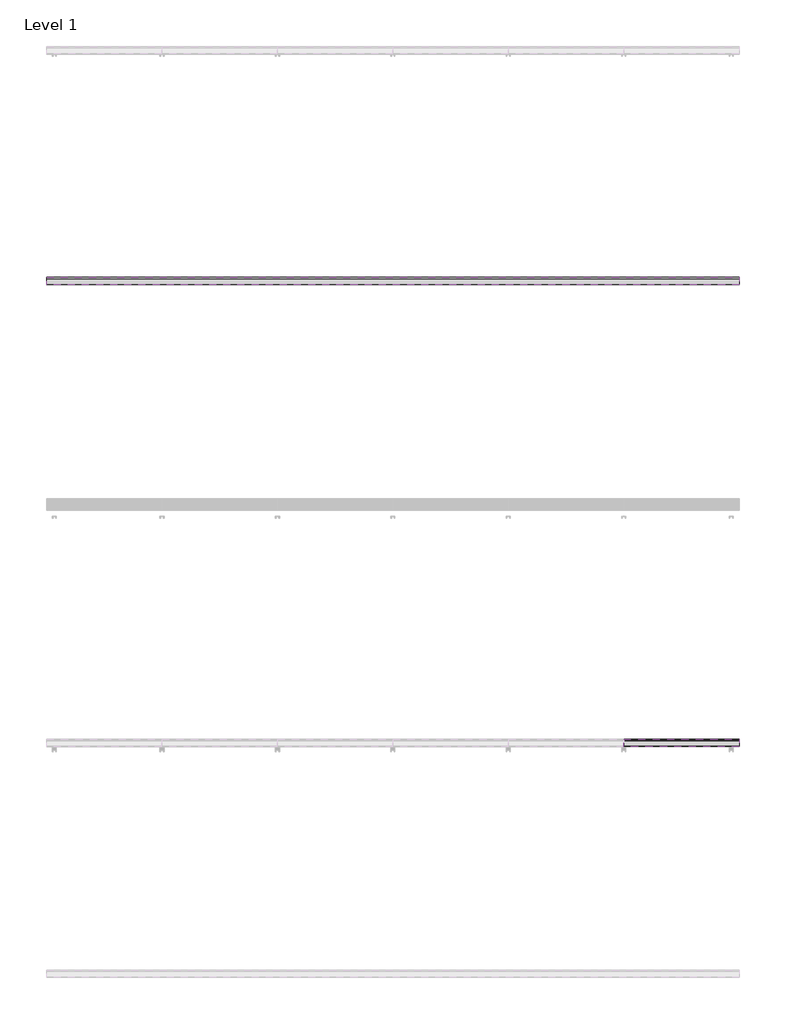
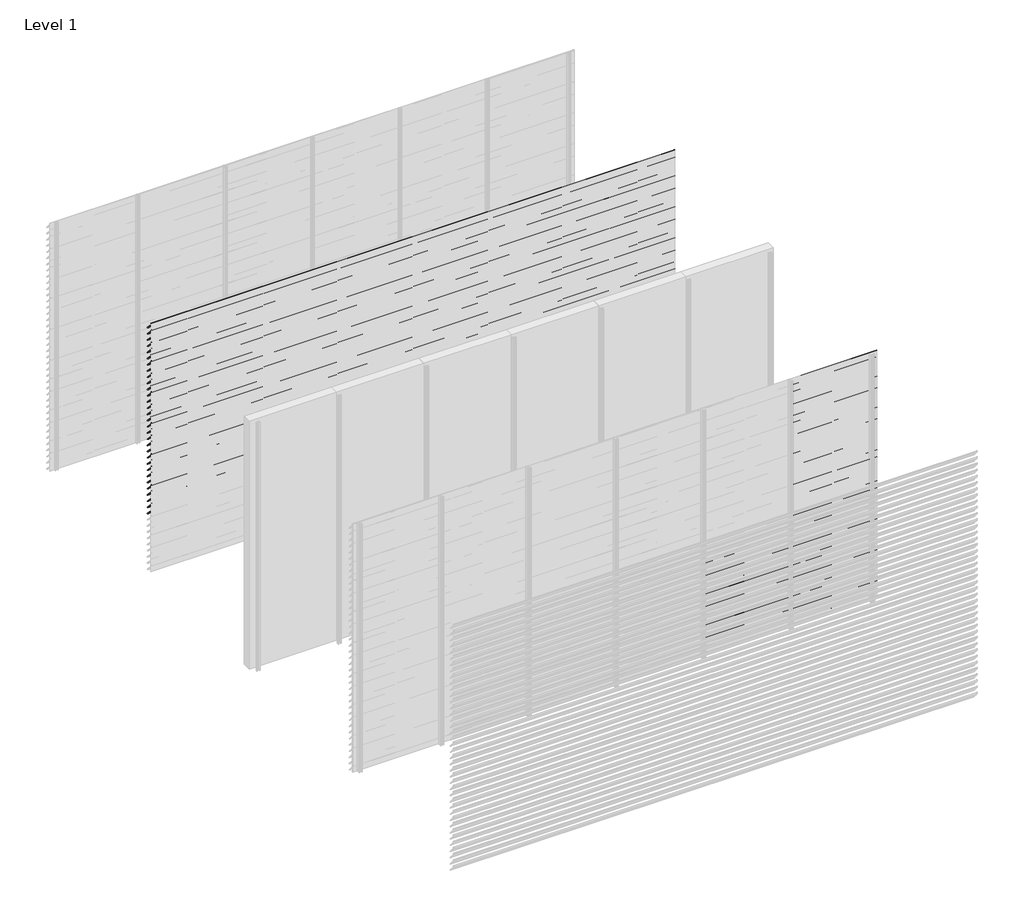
# One storey, part 29 of 35: 86 proxies.
"""IFC4 building model written with IfcOpenShell, lengths in millimetres."""

from ifc_helpers import new_model, si_unit, frame, origin, place, context, project, spatial, polyline, outline, extrude, element, save

model = new_model("IFC4")

# Units and contexts
model_context = context("Model", 3, world=origin())
ifc_project = project(units=[si_unit("LENGTHUNIT", "METRE", prefix="MILLI")], contexts=[model_context])

# Site, building, storey
site = spatial("IfcSite", under=ifc_project)
building = spatial("IfcBuilding", under=site)
storey = spatial("IfcBuildingStorey", under=building, Name="Level 1", Elevation=0.0)

# Proxies
placement = place(None, origin())
element("IfcBuildingElementProxy", 1, Name="Wall Sweeps", at=placement, inside=storey, context=model_context, shape_type="SweptSolid", body=[
    extrude(outline(polyline([(-7996.5, 3000.0), (-7996.5, 2985.5463701), (-7934.5, 2913.9330051), (-7934.5, 2910.4), (-7936.0, 2910.4), (-7936.0, 2913.3738975), (-7998.0, 2984.9872626), (-7998.0, 3000.0), (-7996.5, 3000.0)])), frame((0.0, 0.0, 0.0), z_axis=(1.0, 0.0, 0.0), x_axis=(0.0, 1.0, 0.0)), (0.0, 0.0, 1.0), 6000.0),
])
element("IfcBuildingElementProxy", 2, Name="Wall Sweeps", at=placement, inside=storey, context=model_context, shape_type="SweptSolid", body=[
    extrude(outline(polyline([(-7996.5, 2925.0), (-7996.5, 2910.5463701), (-7934.5, 2838.9330051), (-7934.5, 2835.4), (-7936.0, 2835.4), (-7936.0, 2838.3738975), (-7998.0, 2909.9872626), (-7998.0, 2925.0), (-7996.5, 2925.0)])), frame((0.0, 0.0, 0.0), z_axis=(1.0, 0.0, 0.0), x_axis=(0.0, 1.0, 0.0)), (0.0, 0.0, 1.0), 6000.0),
])
element("IfcBuildingElementProxy", 3, Name="Wall Sweeps", at=placement, inside=storey, context=model_context, shape_type="SweptSolid", body=[
    extrude(outline(polyline([(-7996.5, 2850.0), (-7996.5, 2835.5463701), (-7934.5, 2763.9330051), (-7934.5, 2760.4), (-7936.0, 2760.4), (-7936.0, 2763.3738975), (-7998.0, 2834.9872626), (-7998.0, 2850.0), (-7996.5, 2850.0)])), frame((0.0, 0.0, 0.0), z_axis=(1.0, 0.0, 0.0), x_axis=(0.0, 1.0, 0.0)), (0.0, 0.0, 1.0), 6000.0),
])
element("IfcBuildingElementProxy", 4, Name="Wall Sweeps", at=placement, inside=storey, context=model_context, shape_type="SweptSolid", body=[
    extrude(outline(polyline([(-7996.5, 2775.0), (-7996.5, 2760.5463701), (-7934.5, 2688.9330051), (-7934.5, 2685.4), (-7936.0, 2685.4), (-7936.0, 2688.3738975), (-7998.0, 2759.9872626), (-7998.0, 2775.0), (-7996.5, 2775.0)])), frame((0.0, 0.0, 0.0), z_axis=(1.0, 0.0, 0.0), x_axis=(0.0, 1.0, 0.0)), (0.0, 0.0, 1.0), 6000.0),
])
element("IfcBuildingElementProxy", 5, Name="Wall Sweeps", at=placement, inside=storey, context=model_context, shape_type="SweptSolid", body=[
    extrude(outline(polyline([(-7996.5, 2700.0), (-7996.5, 2685.5463701), (-7934.5, 2613.9330051), (-7934.5, 2610.4), (-7936.0, 2610.4), (-7936.0, 2613.3738975), (-7998.0, 2684.9872626), (-7998.0, 2700.0), (-7996.5, 2700.0)])), frame((0.0, 0.0, 0.0), z_axis=(1.0, 0.0, 0.0), x_axis=(0.0, 1.0, 0.0)), (0.0, 0.0, 1.0), 6000.0),
])
element("IfcBuildingElementProxy", 6, Name="Wall Sweeps", at=placement, inside=storey, context=model_context, shape_type="SweptSolid", body=[
    extrude(outline(polyline([(-7996.5, 2625.0), (-7996.5, 2610.5463701), (-7934.5, 2538.9330051), (-7934.5, 2535.4), (-7936.0, 2535.4), (-7936.0, 2538.3738975), (-7998.0, 2609.9872626), (-7998.0, 2625.0), (-7996.5, 2625.0)])), frame((0.0, 0.0, 0.0), z_axis=(1.0, 0.0, 0.0), x_axis=(0.0, 1.0, 0.0)), (0.0, 0.0, 1.0), 6000.0),
])
element("IfcBuildingElementProxy", 7, Name="Wall Sweeps", at=placement, inside=storey, context=model_context, shape_type="SweptSolid", body=[
    extrude(outline(polyline([(-7996.5, 2550.0), (-7996.5, 2535.5463701), (-7934.5, 2463.9330051), (-7934.5, 2460.4), (-7936.0, 2460.4), (-7936.0, 2463.3738975), (-7998.0, 2534.9872626), (-7998.0, 2550.0), (-7996.5, 2550.0)])), frame((0.0, 0.0, 0.0), z_axis=(1.0, 0.0, 0.0), x_axis=(0.0, 1.0, 0.0)), (0.0, 0.0, 1.0), 6000.0),
])
element("IfcBuildingElementProxy", 8, Name="Wall Sweeps", at=placement, inside=storey, context=model_context, shape_type="SweptSolid", body=[
    extrude(outline(polyline([(-7996.5, 2475.0), (-7996.5, 2460.5463701), (-7934.5, 2388.9330051), (-7934.5, 2385.4), (-7936.0, 2385.4), (-7936.0, 2388.3738975), (-7998.0, 2459.9872626), (-7998.0, 2475.0), (-7996.5, 2475.0)])), frame((0.0, 0.0, 0.0), z_axis=(1.0, 0.0, 0.0), x_axis=(0.0, 1.0, 0.0)), (0.0, 0.0, 1.0), 6000.0),
])
element("IfcBuildingElementProxy", 9, Name="Wall Sweeps", at=placement, inside=storey, context=model_context, shape_type="SweptSolid", body=[
    extrude(outline(polyline([(-7996.5, 2400.0), (-7996.5, 2385.5463701), (-7934.5, 2313.9330051), (-7934.5, 2310.4), (-7936.0, 2310.4), (-7936.0, 2313.3738975), (-7998.0, 2384.9872626), (-7998.0, 2400.0), (-7996.5, 2400.0)])), frame((0.0, 0.0, 0.0), z_axis=(1.0, 0.0, 0.0), x_axis=(0.0, 1.0, 0.0)), (0.0, 0.0, 1.0), 6000.0),
])
element("IfcBuildingElementProxy", 10, Name="Wall Sweeps", at=placement, inside=storey, context=model_context, shape_type="SweptSolid", body=[
    extrude(outline(polyline([(-7996.5, 2325.0), (-7996.5, 2310.5463701), (-7934.5, 2238.9330051), (-7934.5, 2235.4), (-7936.0, 2235.4), (-7936.0, 2238.3738975), (-7998.0, 2309.9872626), (-7998.0, 2325.0), (-7996.5, 2325.0)])), frame((0.0, 0.0, 0.0), z_axis=(1.0, 0.0, 0.0), x_axis=(0.0, 1.0, 0.0)), (0.0, 0.0, 1.0), 6000.0),
])
element("IfcBuildingElementProxy", 11, Name="Wall Sweeps", at=placement, inside=storey, context=model_context, shape_type="SweptSolid", body=[
    extrude(outline(polyline([(-7996.5, 2250.0), (-7996.5, 2235.5463701), (-7934.5, 2163.9330051), (-7934.5, 2160.4), (-7936.0, 2160.4), (-7936.0, 2163.3738975), (-7998.0, 2234.9872626), (-7998.0, 2250.0), (-7996.5, 2250.0)])), frame((0.0, 0.0, 0.0), z_axis=(1.0, 0.0, 0.0), x_axis=(0.0, 1.0, 0.0)), (0.0, 0.0, 1.0), 6000.0),
])
element("IfcBuildingElementProxy", 12, Name="Wall Sweeps", at=placement, inside=storey, context=model_context, shape_type="SweptSolid", body=[
    extrude(outline(polyline([(-7996.5, 2175.0), (-7996.5, 2160.5463701), (-7934.5, 2088.9330051), (-7934.5, 2085.4), (-7936.0, 2085.4), (-7936.0, 2088.3738975), (-7998.0, 2159.9872626), (-7998.0, 2175.0), (-7996.5, 2175.0)])), frame((0.0, 0.0, 0.0), z_axis=(1.0, 0.0, 0.0), x_axis=(0.0, 1.0, 0.0)), (0.0, 0.0, 1.0), 6000.0),
])
element("IfcBuildingElementProxy", 13, Name="Wall Sweeps", at=placement, inside=storey, context=model_context, shape_type="SweptSolid", body=[
    extrude(outline(polyline([(-7996.5, 2100.0), (-7996.5, 2085.5463701), (-7934.5, 2013.9330051), (-7934.5, 2010.4), (-7936.0, 2010.4), (-7936.0, 2013.3738975), (-7998.0, 2084.9872626), (-7998.0, 2100.0), (-7996.5, 2100.0)])), frame((0.0, 0.0, 0.0), z_axis=(1.0, 0.0, 0.0), x_axis=(0.0, 1.0, 0.0)), (0.0, 0.0, 1.0), 6000.0),
])
element("IfcBuildingElementProxy", 14, Name="Wall Sweeps", at=placement, inside=storey, context=model_context, shape_type="SweptSolid", body=[
    extrude(outline(polyline([(-7996.5, 2025.0), (-7996.5, 2010.5463701), (-7934.5, 1938.9330051), (-7934.5, 1935.4), (-7936.0, 1935.4), (-7936.0, 1938.3738975), (-7998.0, 2009.9872626), (-7998.0, 2025.0), (-7996.5, 2025.0)])), frame((0.0, 0.0, 0.0), z_axis=(1.0, 0.0, 0.0), x_axis=(0.0, 1.0, 0.0)), (0.0, 0.0, 1.0), 6000.0),
])
element("IfcBuildingElementProxy", 15, Name="Wall Sweeps", at=placement, inside=storey, context=model_context, shape_type="SweptSolid", body=[
    extrude(outline(polyline([(-7996.5, 1950.0), (-7996.5, 1935.5463701), (-7934.5, 1863.9330051), (-7934.5, 1860.4), (-7936.0, 1860.4), (-7936.0, 1863.3738975), (-7998.0, 1934.9872626), (-7998.0, 1950.0), (-7996.5, 1950.0)])), frame((0.0, 0.0, 0.0), z_axis=(1.0, 0.0, 0.0), x_axis=(0.0, 1.0, 0.0)), (0.0, 0.0, 1.0), 6000.0),
])
element("IfcBuildingElementProxy", 16, Name="Wall Sweeps", at=placement, inside=storey, context=model_context, shape_type="SweptSolid", body=[
    extrude(outline(polyline([(-7996.5, 1875.0), (-7996.5, 1860.5463701), (-7934.5, 1788.9330051), (-7934.5, 1785.4), (-7936.0, 1785.4), (-7936.0, 1788.3738975), (-7998.0, 1859.9872626), (-7998.0, 1875.0), (-7996.5, 1875.0)])), frame((0.0, 0.0, 0.0), z_axis=(1.0, 0.0, 0.0), x_axis=(0.0, 1.0, 0.0)), (0.0, 0.0, 1.0), 6000.0),
])
element("IfcBuildingElementProxy", 17, Name="Wall Sweeps", at=placement, inside=storey, context=model_context, shape_type="SweptSolid", body=[
    extrude(outline(polyline([(-7996.5, 1800.0), (-7996.5, 1785.5463701), (-7934.5, 1713.9330051), (-7934.5, 1710.4), (-7936.0, 1710.4), (-7936.0, 1713.3738975), (-7998.0, 1784.9872626), (-7998.0, 1800.0), (-7996.5, 1800.0)])), frame((0.0, 0.0, 0.0), z_axis=(1.0, 0.0, 0.0), x_axis=(0.0, 1.0, 0.0)), (0.0, 0.0, 1.0), 6000.0),
])
element("IfcBuildingElementProxy", 18, Name="Wall Sweeps", at=placement, inside=storey, context=model_context, shape_type="SweptSolid", body=[
    extrude(outline(polyline([(-7996.5, 1725.0), (-7996.5, 1710.5463701), (-7934.5, 1638.9330051), (-7934.5, 1635.4), (-7936.0, 1635.4), (-7936.0, 1638.3738975), (-7998.0, 1709.9872626), (-7998.0, 1725.0), (-7996.5, 1725.0)])), frame((0.0, 0.0, 0.0), z_axis=(1.0, 0.0, 0.0), x_axis=(0.0, 1.0, 0.0)), (0.0, 0.0, 1.0), 6000.0),
])
element("IfcBuildingElementProxy", 19, Name="Wall Sweeps", at=placement, inside=storey, context=model_context, shape_type="SweptSolid", body=[
    extrude(outline(polyline([(-7996.5, 1650.0), (-7996.5, 1635.5463701), (-7934.5, 1563.9330051), (-7934.5, 1560.4), (-7936.0, 1560.4), (-7936.0, 1563.3738975), (-7998.0, 1634.9872626), (-7998.0, 1650.0), (-7996.5, 1650.0)])), frame((0.0, 0.0, 0.0), z_axis=(1.0, 0.0, 0.0), x_axis=(0.0, 1.0, 0.0)), (0.0, 0.0, 1.0), 6000.0),
])
element("IfcBuildingElementProxy", 20, Name="Wall Sweeps", at=placement, inside=storey, context=model_context, shape_type="SweptSolid", body=[
    extrude(outline(polyline([(-7996.5, 1575.0), (-7996.5, 1560.5463701), (-7934.5, 1488.9330051), (-7934.5, 1485.4), (-7936.0, 1485.4), (-7936.0, 1488.3738975), (-7998.0, 1559.9872626), (-7998.0, 1575.0), (-7996.5, 1575.0)])), frame((0.0, 0.0, 0.0), z_axis=(1.0, 0.0, 0.0), x_axis=(0.0, 1.0, 0.0)), (0.0, 0.0, 1.0), 6000.0),
])
element("IfcBuildingElementProxy", 21, Name="Wall Sweeps", at=placement, inside=storey, context=model_context, shape_type="SweptSolid", body=[
    extrude(outline(polyline([(-7996.5, 1500.0), (-7996.5, 1485.5463701), (-7934.5, 1413.9330051), (-7934.5, 1410.4), (-7936.0, 1410.4), (-7936.0, 1413.3738975), (-7998.0, 1484.9872626), (-7998.0, 1500.0), (-7996.5, 1500.0)])), frame((0.0, 0.0, 0.0), z_axis=(1.0, 0.0, 0.0), x_axis=(0.0, 1.0, 0.0)), (0.0, 0.0, 1.0), 6000.0),
])
element("IfcBuildingElementProxy", 22, Name="Wall Sweeps", at=placement, inside=storey, context=model_context, shape_type="SweptSolid", body=[
    extrude(outline(polyline([(-7996.5, 1425.0), (-7996.5, 1410.5463701), (-7934.5, 1338.9330051), (-7934.5, 1335.4), (-7936.0, 1335.4), (-7936.0, 1338.3738975), (-7998.0, 1409.9872626), (-7998.0, 1425.0), (-7996.5, 1425.0)])), frame((0.0, 0.0, 0.0), z_axis=(1.0, 0.0, 0.0), x_axis=(0.0, 1.0, 0.0)), (0.0, 0.0, 1.0), 6000.0),
])
element("IfcBuildingElementProxy", 23, Name="Wall Sweeps", at=placement, inside=storey, context=model_context, shape_type="SweptSolid", body=[
    extrude(outline(polyline([(-7996.5, 1350.0), (-7996.5, 1335.5463701), (-7934.5, 1263.9330051), (-7934.5, 1260.4), (-7936.0, 1260.4), (-7936.0, 1263.3738975), (-7998.0, 1334.9872626), (-7998.0, 1350.0), (-7996.5, 1350.0)])), frame((0.0, 0.0, 0.0), z_axis=(1.0, 0.0, 0.0), x_axis=(0.0, 1.0, 0.0)), (0.0, 0.0, 1.0), 6000.0),
])
element("IfcBuildingElementProxy", 24, Name="Wall Sweeps", at=placement, inside=storey, context=model_context, shape_type="SweptSolid", body=[
    extrude(outline(polyline([(-7996.5, 1275.0), (-7996.5, 1260.5463701), (-7934.5, 1188.9330051), (-7934.5, 1185.4), (-7936.0, 1185.4), (-7936.0, 1188.3738975), (-7998.0, 1259.9872626), (-7998.0, 1275.0), (-7996.5, 1275.0)])), frame((0.0, 0.0, 0.0), z_axis=(1.0, 0.0, 0.0), x_axis=(0.0, 1.0, 0.0)), (0.0, 0.0, 1.0), 6000.0),
])
element("IfcBuildingElementProxy", 25, Name="Wall Sweeps", at=placement, inside=storey, context=model_context, shape_type="SweptSolid", body=[
    extrude(outline(polyline([(-7996.5, 1200.0), (-7996.5, 1185.5463701), (-7934.5, 1113.9330051), (-7934.5, 1110.4), (-7936.0, 1110.4), (-7936.0, 1113.3738975), (-7998.0, 1184.9872626), (-7998.0, 1200.0), (-7996.5, 1200.0)])), frame((0.0, 0.0, 0.0), z_axis=(1.0, 0.0, 0.0), x_axis=(0.0, 1.0, 0.0)), (0.0, 0.0, 1.0), 6000.0),
])
element("IfcBuildingElementProxy", 26, Name="Wall Sweeps", at=placement, inside=storey, context=model_context, shape_type="SweptSolid", body=[
    extrude(outline(polyline([(-7996.5, 1125.0), (-7996.5, 1110.5463701), (-7934.5, 1038.9330051), (-7934.5, 1035.4), (-7936.0, 1035.4), (-7936.0, 1038.3738975), (-7998.0, 1109.9872626), (-7998.0, 1125.0), (-7996.5, 1125.0)])), frame((0.0, 0.0, 0.0), z_axis=(1.0, 0.0, 0.0), x_axis=(0.0, 1.0, 0.0)), (0.0, 0.0, 1.0), 6000.0),
])
element("IfcBuildingElementProxy", 27, Name="Wall Sweeps", at=placement, inside=storey, context=model_context, shape_type="SweptSolid", body=[
    extrude(outline(polyline([(-7996.5, 1050.0), (-7996.5, 1035.5463701), (-7934.5, 963.9330051), (-7934.5, 960.4), (-7936.0, 960.4), (-7936.0, 963.3738975), (-7998.0, 1034.9872626), (-7998.0, 1050.0), (-7996.5, 1050.0)])), frame((0.0, 0.0, 0.0), z_axis=(1.0, 0.0, 0.0), x_axis=(0.0, 1.0, 0.0)), (0.0, 0.0, 1.0), 6000.0),
])
element("IfcBuildingElementProxy", 28, Name="Wall Sweeps", at=placement, inside=storey, context=model_context, shape_type="SweptSolid", body=[
    extrude(outline(polyline([(-7996.5, 975.0), (-7996.5, 960.5463701), (-7934.5, 888.9330051), (-7934.5, 885.4), (-7936.0, 885.4), (-7936.0, 888.3738975), (-7998.0, 959.9872626), (-7998.0, 975.0), (-7996.5, 975.0)])), frame((0.0, 0.0, 0.0), z_axis=(1.0, 0.0, 0.0), x_axis=(0.0, 1.0, 0.0)), (0.0, 0.0, 1.0), 6000.0),
])
element("IfcBuildingElementProxy", 29, Name="Wall Sweeps", at=placement, inside=storey, context=model_context, shape_type="SweptSolid", body=[
    extrude(outline(polyline([(-7996.5, 900.0), (-7996.5, 885.5463701), (-7934.5, 813.9330051), (-7934.5, 810.4), (-7936.0, 810.4), (-7936.0, 813.3738975), (-7998.0, 884.9872626), (-7998.0, 900.0), (-7996.5, 900.0)])), frame((0.0, 0.0, 0.0), z_axis=(1.0, 0.0, 0.0), x_axis=(0.0, 1.0, 0.0)), (0.0, 0.0, 1.0), 6000.0),
])
element("IfcBuildingElementProxy", 30, Name="Wall Sweeps", at=placement, inside=storey, context=model_context, shape_type="SweptSolid", body=[
    extrude(outline(polyline([(-7996.5, 825.0), (-7996.5, 810.5463701), (-7934.5, 738.9330051), (-7934.5, 735.4), (-7936.0, 735.4), (-7936.0, 738.3738975), (-7998.0, 809.9872626), (-7998.0, 825.0), (-7996.5, 825.0)])), frame((0.0, 0.0, 0.0), z_axis=(1.0, 0.0, 0.0), x_axis=(0.0, 1.0, 0.0)), (0.0, 0.0, 1.0), 6000.0),
])
element("IfcBuildingElementProxy", 31, Name="Wall Sweeps", at=placement, inside=storey, context=model_context, shape_type="SweptSolid", body=[
    extrude(outline(polyline([(-7996.5, 750.0), (-7996.5, 735.5463701), (-7934.5, 663.9330051), (-7934.5, 660.4), (-7936.0, 660.4), (-7936.0, 663.3738975), (-7998.0, 734.9872626), (-7998.0, 750.0), (-7996.5, 750.0)])), frame((0.0, 0.0, 0.0), z_axis=(1.0, 0.0, 0.0), x_axis=(0.0, 1.0, 0.0)), (0.0, 0.0, 1.0), 6000.0),
])
element("IfcBuildingElementProxy", 32, Name="Wall Sweeps", at=placement, inside=storey, context=model_context, shape_type="SweptSolid", body=[
    extrude(outline(polyline([(-11996.5, 1125.0), (-11996.5, 1110.5463701), (-11934.5, 1038.9330051), (-11934.5, 1035.4), (-11936.0, 1035.4), (-11936.0, 1038.3738975), (-11998.0, 1109.9872626), (-11998.0, 1125.0), (-11996.5, 1125.0)])), frame((4000.0, 0.0, 0.0), z_axis=(1.0, 0.0, 0.0), x_axis=(0.0, 1.0, 0.0)), (0.0, 0.0, 1.0), 1000.0),
])
element("IfcBuildingElementProxy", 33, Name="Wall Sweeps", at=placement, inside=storey, context=model_context, shape_type="SweptSolid", body=[
    extrude(outline(polyline([(-11996.5, 1050.0), (-11996.5, 1035.5463701), (-11934.5, 963.9330051), (-11934.5, 960.4), (-11936.0, 960.4), (-11936.0, 963.3738975), (-11998.0, 1034.9872626), (-11998.0, 1050.0), (-11996.5, 1050.0)])), frame((4000.0, 0.0, 0.0), z_axis=(1.0, 0.0, 0.0), x_axis=(0.0, 1.0, 0.0)), (0.0, 0.0, 1.0), 1000.0),
])
element("IfcBuildingElementProxy", 34, Name="Wall Sweeps", at=placement, inside=storey, context=model_context, shape_type="SweptSolid", body=[
    extrude(outline(polyline([(-11996.5, 975.0), (-11996.5, 960.5463701), (-11934.5, 888.9330051), (-11934.5, 885.4), (-11936.0, 885.4), (-11936.0, 888.3738975), (-11998.0, 959.9872626), (-11998.0, 975.0), (-11996.5, 975.0)])), frame((4000.0, 0.0, 0.0), z_axis=(1.0, 0.0, 0.0), x_axis=(0.0, 1.0, 0.0)), (0.0, 0.0, 1.0), 1000.0),
])
element("IfcBuildingElementProxy", 35, Name="Wall Sweeps", at=placement, inside=storey, context=model_context, shape_type="SweptSolid", body=[
    extrude(outline(polyline([(-11996.5, 900.0), (-11996.5, 885.5463701), (-11934.5, 813.9330051), (-11934.5, 810.4), (-11936.0, 810.4), (-11936.0, 813.3738975), (-11998.0, 884.9872626), (-11998.0, 900.0), (-11996.5, 900.0)])), frame((4000.0, 0.0, 0.0), z_axis=(1.0, 0.0, 0.0), x_axis=(0.0, 1.0, 0.0)), (0.0, 0.0, 1.0), 1000.0),
])
element("IfcBuildingElementProxy", 36, Name="Wall Sweeps", at=placement, inside=storey, context=model_context, shape_type="SweptSolid", body=[
    extrude(outline(polyline([(-11996.5, 825.0), (-11996.5, 810.5463701), (-11934.5, 738.9330051), (-11934.5, 735.4), (-11936.0, 735.4), (-11936.0, 738.3738975), (-11998.0, 809.9872626), (-11998.0, 825.0), (-11996.5, 825.0)])), frame((4000.0, 0.0, 0.0), z_axis=(1.0, 0.0, 0.0), x_axis=(0.0, 1.0, 0.0)), (0.0, 0.0, 1.0), 1000.0),
])
element("IfcBuildingElementProxy", 37, Name="Wall Sweeps", at=placement, inside=storey, context=model_context, shape_type="SweptSolid", body=[
    extrude(outline(polyline([(-11996.5, 750.0), (-11996.5, 735.5463701), (-11934.5, 663.9330051), (-11934.5, 660.4), (-11936.0, 660.4), (-11936.0, 663.3738975), (-11998.0, 734.9872626), (-11998.0, 750.0), (-11996.5, 750.0)])), frame((4000.0, 0.0, 0.0), z_axis=(1.0, 0.0, 0.0), x_axis=(0.0, 1.0, 0.0)), (0.0, 0.0, 1.0), 1000.0),
])
element("IfcBuildingElementProxy", 38, Name="Wall Sweeps", at=placement, inside=storey, context=model_context, shape_type="SweptSolid", body=[
    extrude(outline(polyline([(-11996.5, 675.0), (-11996.5, 660.5463701), (-11934.5, 588.9330051), (-11934.5, 585.4), (-11936.0, 585.4), (-11936.0, 588.3738975), (-11998.0, 659.9872626), (-11998.0, 675.0), (-11996.5, 675.0)])), frame((4000.0, 0.0, 0.0), z_axis=(1.0, 0.0, 0.0), x_axis=(0.0, 1.0, 0.0)), (0.0, 0.0, 1.0), 1000.0),
])
element("IfcBuildingElementProxy", 39, Name="Wall Sweeps", at=placement, inside=storey, context=model_context, shape_type="SweptSolid", body=[
    extrude(outline(polyline([(-11996.5, 600.0), (-11996.5, 585.5463701), (-11934.5, 513.9330051), (-11934.5, 510.4), (-11936.0, 510.4), (-11936.0, 513.3738975), (-11998.0, 584.9872626), (-11998.0, 600.0), (-11996.5, 600.0)])), frame((4000.0, 0.0, 0.0), z_axis=(1.0, 0.0, 0.0), x_axis=(0.0, 1.0, 0.0)), (0.0, 0.0, 1.0), 1000.0),
])
element("IfcBuildingElementProxy", 40, Name="Wall Sweeps", at=placement, inside=storey, context=model_context, shape_type="SweptSolid", body=[
    extrude(outline(polyline([(-11996.5, 525.0), (-11996.5, 510.5463701), (-11934.5, 438.9330051), (-11934.5, 435.4), (-11936.0, 435.4), (-11936.0, 438.3738975), (-11998.0, 509.9872626), (-11998.0, 525.0), (-11996.5, 525.0)])), frame((4000.0, 0.0, 0.0), z_axis=(1.0, 0.0, 0.0), x_axis=(0.0, 1.0, 0.0)), (0.0, 0.0, 1.0), 1000.0),
])
element("IfcBuildingElementProxy", 41, Name="Wall Sweeps", at=placement, inside=storey, context=model_context, shape_type="SweptSolid", body=[
    extrude(outline(polyline([(-11996.5, 450.0), (-11996.5, 435.5463701), (-11934.5, 363.9330051), (-11934.5, 360.4), (-11936.0, 360.4), (-11936.0, 363.3738975), (-11998.0, 434.9872626), (-11998.0, 450.0), (-11996.5, 450.0)])), frame((4000.0, 0.0, 0.0), z_axis=(1.0, 0.0, 0.0), x_axis=(0.0, 1.0, 0.0)), (0.0, 0.0, 1.0), 1000.0),
])
element("IfcBuildingElementProxy", 42, Name="Wall Sweeps", at=placement, inside=storey, context=model_context, shape_type="SweptSolid", body=[
    extrude(outline(polyline([(-11996.5, 375.0), (-11996.5, 360.5463701), (-11934.5, 288.9330051), (-11934.5, 285.4), (-11936.0, 285.4), (-11936.0, 288.3738975), (-11998.0, 359.9872626), (-11998.0, 375.0), (-11996.5, 375.0)])), frame((4000.0, 0.0, 0.0), z_axis=(1.0, 0.0, 0.0), x_axis=(0.0, 1.0, 0.0)), (0.0, 0.0, 1.0), 1000.0),
])
element("IfcBuildingElementProxy", 43, Name="Wall Sweeps", at=placement, inside=storey, context=model_context, shape_type="SweptSolid", body=[
    extrude(outline(polyline([(-11996.5, 300.0), (-11996.5, 285.5463701), (-11934.5, 213.9330051), (-11934.5, 210.4), (-11936.0, 210.4), (-11936.0, 213.3738975), (-11998.0, 284.9872626), (-11998.0, 300.0), (-11996.5, 300.0)])), frame((4000.0, 0.0, 0.0), z_axis=(1.0, 0.0, 0.0), x_axis=(0.0, 1.0, 0.0)), (0.0, 0.0, 1.0), 1000.0),
])
element("IfcBuildingElementProxy", 44, Name="Wall Sweeps", at=placement, inside=storey, context=model_context, shape_type="SweptSolid", body=[
    extrude(outline(polyline([(-11996.5, 225.0), (-11996.5, 210.5463701), (-11934.5, 138.9330051), (-11934.5, 135.4), (-11936.0, 135.4), (-11936.0, 138.3738975), (-11998.0, 209.9872626), (-11998.0, 225.0), (-11996.5, 225.0)])), frame((4000.0, 0.0, 0.0), z_axis=(1.0, 0.0, 0.0), x_axis=(0.0, 1.0, 0.0)), (0.0, 0.0, 1.0), 1000.0),
])
element("IfcBuildingElementProxy", 45, Name="Wall Sweeps", at=placement, inside=storey, context=model_context, shape_type="SweptSolid", body=[
    extrude(outline(polyline([(-11996.5, 150.0), (-11996.5, 135.5463701), (-11934.5, 63.9330051), (-11934.5, 60.4), (-11936.0, 60.4), (-11936.0, 63.3738975), (-11998.0, 134.9872626), (-11998.0, 150.0), (-11996.5, 150.0)])), frame((4000.0, 0.0, 0.0), z_axis=(1.0, 0.0, 0.0), x_axis=(0.0, 1.0, 0.0)), (0.0, 0.0, 1.0), 1000.0),
])
element("IfcBuildingElementProxy", 46, Name="Wall Sweeps", at=placement, inside=storey, context=model_context, shape_type="SweptSolid", body=[
    extrude(outline(polyline([(-11996.5, 75.0), (-11996.5, 60.5463701), (-11934.5, -11.0669949), (-11934.5, -14.6), (-11936.0, -14.6), (-11936.0, -11.6261025), (-11998.0, 59.9872626), (-11998.0, 75.0), (-11996.5, 75.0)])), frame((4000.0, 0.0, 0.0), z_axis=(1.0, 0.0, 0.0), x_axis=(0.0, 1.0, 0.0)), (0.0, 0.0, 1.0), 1000.0),
])
element("IfcBuildingElementProxy", 47, Name="Wall Sweeps", at=placement, inside=storey, context=model_context, shape_type="SweptSolid", body=[
    extrude(outline(polyline([(-11996.5, 3000.0), (-11996.5, 2985.5463701), (-11934.5, 2913.9330051), (-11934.5, 2910.4), (-11936.0, 2910.4), (-11936.0, 2913.3738975), (-11998.0, 2984.9872626), (-11998.0, 3000.0), (-11996.5, 3000.0)])), frame((5000.0, 0.0, 0.0), z_axis=(1.0, 0.0, 0.0), x_axis=(0.0, 1.0, 0.0)), (0.0, 0.0, 1.0), 1000.0),
])
element("IfcBuildingElementProxy", 48, Name="Wall Sweeps", at=placement, inside=storey, context=model_context, shape_type="SweptSolid", body=[
    extrude(outline(polyline([(-11996.5, 2925.0), (-11996.5, 2910.5463701), (-11934.5, 2838.9330051), (-11934.5, 2835.4), (-11936.0, 2835.4), (-11936.0, 2838.3738975), (-11998.0, 2909.9872626), (-11998.0, 2925.0), (-11996.5, 2925.0)])), frame((5000.0, 0.0, 0.0), z_axis=(1.0, 0.0, 0.0), x_axis=(0.0, 1.0, 0.0)), (0.0, 0.0, 1.0), 1000.0),
])
element("IfcBuildingElementProxy", 49, Name="Wall Sweeps", at=placement, inside=storey, context=model_context, shape_type="SweptSolid", body=[
    extrude(outline(polyline([(-11996.5, 2850.0), (-11996.5, 2835.5463701), (-11934.5, 2763.9330051), (-11934.5, 2760.4), (-11936.0, 2760.4), (-11936.0, 2763.3738975), (-11998.0, 2834.9872626), (-11998.0, 2850.0), (-11996.5, 2850.0)])), frame((5000.0, 0.0, 0.0), z_axis=(1.0, 0.0, 0.0), x_axis=(0.0, 1.0, 0.0)), (0.0, 0.0, 1.0), 1000.0),
])
element("IfcBuildingElementProxy", 50, Name="Wall Sweeps", at=placement, inside=storey, context=model_context, shape_type="SweptSolid", body=[
    extrude(outline(polyline([(-11996.5, 2775.0), (-11996.5, 2760.5463701), (-11934.5, 2688.9330051), (-11934.5, 2685.4), (-11936.0, 2685.4), (-11936.0, 2688.3738975), (-11998.0, 2759.9872626), (-11998.0, 2775.0), (-11996.5, 2775.0)])), frame((5000.0, 0.0, 0.0), z_axis=(1.0, 0.0, 0.0), x_axis=(0.0, 1.0, 0.0)), (0.0, 0.0, 1.0), 1000.0),
])
element("IfcBuildingElementProxy", 51, Name="Wall Sweeps", at=placement, inside=storey, context=model_context, shape_type="SweptSolid", body=[
    extrude(outline(polyline([(-11996.5, 2700.0), (-11996.5, 2685.5463701), (-11934.5, 2613.9330051), (-11934.5, 2610.4), (-11936.0, 2610.4), (-11936.0, 2613.3738975), (-11998.0, 2684.9872626), (-11998.0, 2700.0), (-11996.5, 2700.0)])), frame((5000.0, 0.0, 0.0), z_axis=(1.0, 0.0, 0.0), x_axis=(0.0, 1.0, 0.0)), (0.0, 0.0, 1.0), 1000.0),
])
element("IfcBuildingElementProxy", 52, Name="Wall Sweeps", at=placement, inside=storey, context=model_context, shape_type="SweptSolid", body=[
    extrude(outline(polyline([(-11996.5, 2625.0), (-11996.5, 2610.5463701), (-11934.5, 2538.9330051), (-11934.5, 2535.4), (-11936.0, 2535.4), (-11936.0, 2538.3738975), (-11998.0, 2609.9872626), (-11998.0, 2625.0), (-11996.5, 2625.0)])), frame((5000.0, 0.0, 0.0), z_axis=(1.0, 0.0, 0.0), x_axis=(0.0, 1.0, 0.0)), (0.0, 0.0, 1.0), 1000.0),
])
element("IfcBuildingElementProxy", 53, Name="Wall Sweeps", at=placement, inside=storey, context=model_context, shape_type="SweptSolid", body=[
    extrude(outline(polyline([(-11996.5, 2550.0), (-11996.5, 2535.5463701), (-11934.5, 2463.9330051), (-11934.5, 2460.4), (-11936.0, 2460.4), (-11936.0, 2463.3738975), (-11998.0, 2534.9872626), (-11998.0, 2550.0), (-11996.5, 2550.0)])), frame((5000.0, 0.0, 0.0), z_axis=(1.0, 0.0, 0.0), x_axis=(0.0, 1.0, 0.0)), (0.0, 0.0, 1.0), 1000.0),
])
element("IfcBuildingElementProxy", 54, Name="Wall Sweeps", at=placement, inside=storey, context=model_context, shape_type="SweptSolid", body=[
    extrude(outline(polyline([(-11996.5, 2475.0), (-11996.5, 2460.5463701), (-11934.5, 2388.9330051), (-11934.5, 2385.4), (-11936.0, 2385.4), (-11936.0, 2388.3738975), (-11998.0, 2459.9872626), (-11998.0, 2475.0), (-11996.5, 2475.0)])), frame((5000.0, 0.0, 0.0), z_axis=(1.0, 0.0, 0.0), x_axis=(0.0, 1.0, 0.0)), (0.0, 0.0, 1.0), 1000.0),
])
element("IfcBuildingElementProxy", 55, Name="Wall Sweeps", at=placement, inside=storey, context=model_context, shape_type="SweptSolid", body=[
    extrude(outline(polyline([(-11996.5, 2400.0), (-11996.5, 2385.5463701), (-11934.5, 2313.9330051), (-11934.5, 2310.4), (-11936.0, 2310.4), (-11936.0, 2313.3738975), (-11998.0, 2384.9872626), (-11998.0, 2400.0), (-11996.5, 2400.0)])), frame((5000.0, 0.0, 0.0), z_axis=(1.0, 0.0, 0.0), x_axis=(0.0, 1.0, 0.0)), (0.0, 0.0, 1.0), 1000.0),
])
element("IfcBuildingElementProxy", 56, Name="Wall Sweeps", at=placement, inside=storey, context=model_context, shape_type="SweptSolid", body=[
    extrude(outline(polyline([(-11996.5, 2325.0), (-11996.5, 2310.5463701), (-11934.5, 2238.9330051), (-11934.5, 2235.4), (-11936.0, 2235.4), (-11936.0, 2238.3738975), (-11998.0, 2309.9872626), (-11998.0, 2325.0), (-11996.5, 2325.0)])), frame((5000.0, 0.0, 0.0), z_axis=(1.0, 0.0, 0.0), x_axis=(0.0, 1.0, 0.0)), (0.0, 0.0, 1.0), 1000.0),
])
element("IfcBuildingElementProxy", 57, Name="Wall Sweeps", at=placement, inside=storey, context=model_context, shape_type="SweptSolid", body=[
    extrude(outline(polyline([(-11996.5, 2250.0), (-11996.5, 2235.5463701), (-11934.5, 2163.9330051), (-11934.5, 2160.4), (-11936.0, 2160.4), (-11936.0, 2163.3738975), (-11998.0, 2234.9872626), (-11998.0, 2250.0), (-11996.5, 2250.0)])), frame((5000.0, 0.0, 0.0), z_axis=(1.0, 0.0, 0.0), x_axis=(0.0, 1.0, 0.0)), (0.0, 0.0, 1.0), 1000.0),
])
element("IfcBuildingElementProxy", 58, Name="Wall Sweeps", at=placement, inside=storey, context=model_context, shape_type="SweptSolid", body=[
    extrude(outline(polyline([(-11996.5, 2175.0), (-11996.5, 2160.5463701), (-11934.5, 2088.9330051), (-11934.5, 2085.4), (-11936.0, 2085.4), (-11936.0, 2088.3738975), (-11998.0, 2159.9872626), (-11998.0, 2175.0), (-11996.5, 2175.0)])), frame((5000.0, 0.0, 0.0), z_axis=(1.0, 0.0, 0.0), x_axis=(0.0, 1.0, 0.0)), (0.0, 0.0, 1.0), 1000.0),
])
element("IfcBuildingElementProxy", 59, Name="Wall Sweeps", at=placement, inside=storey, context=model_context, shape_type="SweptSolid", body=[
    extrude(outline(polyline([(-11996.5, 2100.0), (-11996.5, 2085.5463701), (-11934.5, 2013.9330051), (-11934.5, 2010.4), (-11936.0, 2010.4), (-11936.0, 2013.3738975), (-11998.0, 2084.9872626), (-11998.0, 2100.0), (-11996.5, 2100.0)])), frame((5000.0, 0.0, 0.0), z_axis=(1.0, 0.0, 0.0), x_axis=(0.0, 1.0, 0.0)), (0.0, 0.0, 1.0), 1000.0),
])
element("IfcBuildingElementProxy", 60, Name="Wall Sweeps", at=placement, inside=storey, context=model_context, shape_type="SweptSolid", body=[
    extrude(outline(polyline([(-11996.5, 2025.0), (-11996.5, 2010.5463701), (-11934.5, 1938.9330051), (-11934.5, 1935.4), (-11936.0, 1935.4), (-11936.0, 1938.3738975), (-11998.0, 2009.9872626), (-11998.0, 2025.0), (-11996.5, 2025.0)])), frame((5000.0, 0.0, 0.0), z_axis=(1.0, 0.0, 0.0), x_axis=(0.0, 1.0, 0.0)), (0.0, 0.0, 1.0), 1000.0),
])
element("IfcBuildingElementProxy", 61, Name="Wall Sweeps", at=placement, inside=storey, context=model_context, shape_type="SweptSolid", body=[
    extrude(outline(polyline([(-11996.5, 1950.0), (-11996.5, 1935.5463701), (-11934.5, 1863.9330051), (-11934.5, 1860.4), (-11936.0, 1860.4), (-11936.0, 1863.3738975), (-11998.0, 1934.9872626), (-11998.0, 1950.0), (-11996.5, 1950.0)])), frame((5000.0, 0.0, 0.0), z_axis=(1.0, 0.0, 0.0), x_axis=(0.0, 1.0, 0.0)), (0.0, 0.0, 1.0), 1000.0),
])
element("IfcBuildingElementProxy", 62, Name="Wall Sweeps", at=placement, inside=storey, context=model_context, shape_type="SweptSolid", body=[
    extrude(outline(polyline([(-11996.5, 1875.0), (-11996.5, 1860.5463701), (-11934.5, 1788.9330051), (-11934.5, 1785.4), (-11936.0, 1785.4), (-11936.0, 1788.3738975), (-11998.0, 1859.9872626), (-11998.0, 1875.0), (-11996.5, 1875.0)])), frame((5000.0, 0.0, 0.0), z_axis=(1.0, 0.0, 0.0), x_axis=(0.0, 1.0, 0.0)), (0.0, 0.0, 1.0), 1000.0),
])
element("IfcBuildingElementProxy", 63, Name="Wall Sweeps", at=placement, inside=storey, context=model_context, shape_type="SweptSolid", body=[
    extrude(outline(polyline([(-11996.5, 1800.0), (-11996.5, 1785.5463701), (-11934.5, 1713.9330051), (-11934.5, 1710.4), (-11936.0, 1710.4), (-11936.0, 1713.3738975), (-11998.0, 1784.9872626), (-11998.0, 1800.0), (-11996.5, 1800.0)])), frame((5000.0, 0.0, 0.0), z_axis=(1.0, 0.0, 0.0), x_axis=(0.0, 1.0, 0.0)), (0.0, 0.0, 1.0), 1000.0),
])
element("IfcBuildingElementProxy", 64, Name="Wall Sweeps", at=placement, inside=storey, context=model_context, shape_type="SweptSolid", body=[
    extrude(outline(polyline([(-11996.5, 1725.0), (-11996.5, 1710.5463701), (-11934.5, 1638.9330051), (-11934.5, 1635.4), (-11936.0, 1635.4), (-11936.0, 1638.3738975), (-11998.0, 1709.9872626), (-11998.0, 1725.0), (-11996.5, 1725.0)])), frame((5000.0, 0.0, 0.0), z_axis=(1.0, 0.0, 0.0), x_axis=(0.0, 1.0, 0.0)), (0.0, 0.0, 1.0), 1000.0),
])
element("IfcBuildingElementProxy", 65, Name="Wall Sweeps", at=placement, inside=storey, context=model_context, shape_type="SweptSolid", body=[
    extrude(outline(polyline([(-11996.5, 1650.0), (-11996.5, 1635.5463701), (-11934.5, 1563.9330051), (-11934.5, 1560.4), (-11936.0, 1560.4), (-11936.0, 1563.3738975), (-11998.0, 1634.9872626), (-11998.0, 1650.0), (-11996.5, 1650.0)])), frame((5000.0, 0.0, 0.0), z_axis=(1.0, 0.0, 0.0), x_axis=(0.0, 1.0, 0.0)), (0.0, 0.0, 1.0), 1000.0),
])
element("IfcBuildingElementProxy", 66, Name="Wall Sweeps", at=placement, inside=storey, context=model_context, shape_type="SweptSolid", body=[
    extrude(outline(polyline([(-11996.5, 1575.0), (-11996.5, 1560.5463701), (-11934.5, 1488.9330051), (-11934.5, 1485.4), (-11936.0, 1485.4), (-11936.0, 1488.3738975), (-11998.0, 1559.9872626), (-11998.0, 1575.0), (-11996.5, 1575.0)])), frame((5000.0, 0.0, 0.0), z_axis=(1.0, 0.0, 0.0), x_axis=(0.0, 1.0, 0.0)), (0.0, 0.0, 1.0), 1000.0),
])
element("IfcBuildingElementProxy", 67, Name="Wall Sweeps", at=placement, inside=storey, context=model_context, shape_type="SweptSolid", body=[
    extrude(outline(polyline([(-11996.5, 1500.0), (-11996.5, 1485.5463701), (-11934.5, 1413.9330051), (-11934.5, 1410.4), (-11936.0, 1410.4), (-11936.0, 1413.3738975), (-11998.0, 1484.9872626), (-11998.0, 1500.0), (-11996.5, 1500.0)])), frame((5000.0, 0.0, 0.0), z_axis=(1.0, 0.0, 0.0), x_axis=(0.0, 1.0, 0.0)), (0.0, 0.0, 1.0), 1000.0),
])
element("IfcBuildingElementProxy", 68, Name="Wall Sweeps", at=placement, inside=storey, context=model_context, shape_type="SweptSolid", body=[
    extrude(outline(polyline([(-11996.5, 1425.0), (-11996.5, 1410.5463701), (-11934.5, 1338.9330051), (-11934.5, 1335.4), (-11936.0, 1335.4), (-11936.0, 1338.3738975), (-11998.0, 1409.9872626), (-11998.0, 1425.0), (-11996.5, 1425.0)])), frame((5000.0, 0.0, 0.0), z_axis=(1.0, 0.0, 0.0), x_axis=(0.0, 1.0, 0.0)), (0.0, 0.0, 1.0), 1000.0),
])
element("IfcBuildingElementProxy", 69, Name="Wall Sweeps", at=placement, inside=storey, context=model_context, shape_type="SweptSolid", body=[
    extrude(outline(polyline([(-11996.5, 1350.0), (-11996.5, 1335.5463701), (-11934.5, 1263.9330051), (-11934.5, 1260.4), (-11936.0, 1260.4), (-11936.0, 1263.3738975), (-11998.0, 1334.9872626), (-11998.0, 1350.0), (-11996.5, 1350.0)])), frame((5000.0, 0.0, 0.0), z_axis=(1.0, 0.0, 0.0), x_axis=(0.0, 1.0, 0.0)), (0.0, 0.0, 1.0), 1000.0),
])
element("IfcBuildingElementProxy", 70, Name="Wall Sweeps", at=placement, inside=storey, context=model_context, shape_type="SweptSolid", body=[
    extrude(outline(polyline([(-11996.5, 1275.0), (-11996.5, 1260.5463701), (-11934.5, 1188.9330051), (-11934.5, 1185.4), (-11936.0, 1185.4), (-11936.0, 1188.3738975), (-11998.0, 1259.9872626), (-11998.0, 1275.0), (-11996.5, 1275.0)])), frame((5000.0, 0.0, 0.0), z_axis=(1.0, 0.0, 0.0), x_axis=(0.0, 1.0, 0.0)), (0.0, 0.0, 1.0), 1000.0),
])
element("IfcBuildingElementProxy", 71, Name="Wall Sweeps", at=placement, inside=storey, context=model_context, shape_type="SweptSolid", body=[
    extrude(outline(polyline([(-11996.5, 1200.0), (-11996.5, 1185.5463701), (-11934.5, 1113.9330051), (-11934.5, 1110.4), (-11936.0, 1110.4), (-11936.0, 1113.3738975), (-11998.0, 1184.9872626), (-11998.0, 1200.0), (-11996.5, 1200.0)])), frame((5000.0, 0.0, 0.0), z_axis=(1.0, 0.0, 0.0), x_axis=(0.0, 1.0, 0.0)), (0.0, 0.0, 1.0), 1000.0),
])
element("IfcBuildingElementProxy", 72, Name="Wall Sweeps", at=placement, inside=storey, context=model_context, shape_type="SweptSolid", body=[
    extrude(outline(polyline([(-11996.5, 1125.0), (-11996.5, 1110.5463701), (-11934.5, 1038.9330051), (-11934.5, 1035.4), (-11936.0, 1035.4), (-11936.0, 1038.3738975), (-11998.0, 1109.9872626), (-11998.0, 1125.0), (-11996.5, 1125.0)])), frame((5000.0, 0.0, 0.0), z_axis=(1.0, 0.0, 0.0), x_axis=(0.0, 1.0, 0.0)), (0.0, 0.0, 1.0), 1000.0),
])
element("IfcBuildingElementProxy", 73, Name="Wall Sweeps", at=placement, inside=storey, context=model_context, shape_type="SweptSolid", body=[
    extrude(outline(polyline([(-11996.5, 1050.0), (-11996.5, 1035.5463701), (-11934.5, 963.9330051), (-11934.5, 960.4), (-11936.0, 960.4), (-11936.0, 963.3738975), (-11998.0, 1034.9872626), (-11998.0, 1050.0), (-11996.5, 1050.0)])), frame((5000.0, 0.0, 0.0), z_axis=(1.0, 0.0, 0.0), x_axis=(0.0, 1.0, 0.0)), (0.0, 0.0, 1.0), 1000.0),
])
element("IfcBuildingElementProxy", 74, Name="Wall Sweeps", at=placement, inside=storey, context=model_context, shape_type="SweptSolid", body=[
    extrude(outline(polyline([(-11996.5, 975.0), (-11996.5, 960.5463701), (-11934.5, 888.9330051), (-11934.5, 885.4), (-11936.0, 885.4), (-11936.0, 888.3738975), (-11998.0, 959.9872626), (-11998.0, 975.0), (-11996.5, 975.0)])), frame((5000.0, 0.0, 0.0), z_axis=(1.0, 0.0, 0.0), x_axis=(0.0, 1.0, 0.0)), (0.0, 0.0, 1.0), 1000.0),
])
element("IfcBuildingElementProxy", 75, Name="Wall Sweeps", at=placement, inside=storey, context=model_context, shape_type="SweptSolid", body=[
    extrude(outline(polyline([(-11996.5, 900.0), (-11996.5, 885.5463701), (-11934.5, 813.9330051), (-11934.5, 810.4), (-11936.0, 810.4), (-11936.0, 813.3738975), (-11998.0, 884.9872626), (-11998.0, 900.0), (-11996.5, 900.0)])), frame((5000.0, 0.0, 0.0), z_axis=(1.0, 0.0, 0.0), x_axis=(0.0, 1.0, 0.0)), (0.0, 0.0, 1.0), 1000.0),
])
element("IfcBuildingElementProxy", 76, Name="Wall Sweeps", at=placement, inside=storey, context=model_context, shape_type="SweptSolid", body=[
    extrude(outline(polyline([(-11996.5, 825.0), (-11996.5, 810.5463701), (-11934.5, 738.9330051), (-11934.5, 735.4), (-11936.0, 735.4), (-11936.0, 738.3738975), (-11998.0, 809.9872626), (-11998.0, 825.0), (-11996.5, 825.0)])), frame((5000.0, 0.0, 0.0), z_axis=(1.0, 0.0, 0.0), x_axis=(0.0, 1.0, 0.0)), (0.0, 0.0, 1.0), 1000.0),
])
element("IfcBuildingElementProxy", 77, Name="Wall Sweeps", at=placement, inside=storey, context=model_context, shape_type="SweptSolid", body=[
    extrude(outline(polyline([(-11996.5, 750.0), (-11996.5, 735.5463701), (-11934.5, 663.9330051), (-11934.5, 660.4), (-11936.0, 660.4), (-11936.0, 663.3738975), (-11998.0, 734.9872626), (-11998.0, 750.0), (-11996.5, 750.0)])), frame((5000.0, 0.0, 0.0), z_axis=(1.0, 0.0, 0.0), x_axis=(0.0, 1.0, 0.0)), (0.0, 0.0, 1.0), 1000.0),
])
element("IfcBuildingElementProxy", 78, Name="Wall Sweeps", at=placement, inside=storey, context=model_context, shape_type="SweptSolid", body=[
    extrude(outline(polyline([(-11996.5, 675.0), (-11996.5, 660.5463701), (-11934.5, 588.9330051), (-11934.5, 585.4), (-11936.0, 585.4), (-11936.0, 588.3738975), (-11998.0, 659.9872626), (-11998.0, 675.0), (-11996.5, 675.0)])), frame((5000.0, 0.0, 0.0), z_axis=(1.0, 0.0, 0.0), x_axis=(0.0, 1.0, 0.0)), (0.0, 0.0, 1.0), 1000.0),
])
element("IfcBuildingElementProxy", 79, Name="Wall Sweeps", at=placement, inside=storey, context=model_context, shape_type="SweptSolid", body=[
    extrude(outline(polyline([(-11996.5, 600.0), (-11996.5, 585.5463701), (-11934.5, 513.9330051), (-11934.5, 510.4), (-11936.0, 510.4), (-11936.0, 513.3738975), (-11998.0, 584.9872626), (-11998.0, 600.0), (-11996.5, 600.0)])), frame((5000.0, 0.0, 0.0), z_axis=(1.0, 0.0, 0.0), x_axis=(0.0, 1.0, 0.0)), (0.0, 0.0, 1.0), 1000.0),
])
element("IfcBuildingElementProxy", 80, Name="Wall Sweeps", at=placement, inside=storey, context=model_context, shape_type="SweptSolid", body=[
    extrude(outline(polyline([(-11996.5, 525.0), (-11996.5, 510.5463701), (-11934.5, 438.9330051), (-11934.5, 435.4), (-11936.0, 435.4), (-11936.0, 438.3738975), (-11998.0, 509.9872626), (-11998.0, 525.0), (-11996.5, 525.0)])), frame((5000.0, 0.0, 0.0), z_axis=(1.0, 0.0, 0.0), x_axis=(0.0, 1.0, 0.0)), (0.0, 0.0, 1.0), 1000.0),
])
element("IfcBuildingElementProxy", 81, Name="Wall Sweeps", at=placement, inside=storey, context=model_context, shape_type="SweptSolid", body=[
    extrude(outline(polyline([(-11996.5, 450.0), (-11996.5, 435.5463701), (-11934.5, 363.9330051), (-11934.5, 360.4), (-11936.0, 360.4), (-11936.0, 363.3738975), (-11998.0, 434.9872626), (-11998.0, 450.0), (-11996.5, 450.0)])), frame((5000.0, 0.0, 0.0), z_axis=(1.0, 0.0, 0.0), x_axis=(0.0, 1.0, 0.0)), (0.0, 0.0, 1.0), 1000.0),
])
element("IfcBuildingElementProxy", 82, Name="Wall Sweeps", at=placement, inside=storey, context=model_context, shape_type="SweptSolid", body=[
    extrude(outline(polyline([(-11996.5, 375.0), (-11996.5, 360.5463701), (-11934.5, 288.9330051), (-11934.5, 285.4), (-11936.0, 285.4), (-11936.0, 288.3738975), (-11998.0, 359.9872626), (-11998.0, 375.0), (-11996.5, 375.0)])), frame((5000.0, 0.0, 0.0), z_axis=(1.0, 0.0, 0.0), x_axis=(0.0, 1.0, 0.0)), (0.0, 0.0, 1.0), 1000.0),
])
element("IfcBuildingElementProxy", 83, Name="Wall Sweeps", at=placement, inside=storey, context=model_context, shape_type="SweptSolid", body=[
    extrude(outline(polyline([(-11996.5, 300.0), (-11996.5, 285.5463701), (-11934.5, 213.9330051), (-11934.5, 210.4), (-11936.0, 210.4), (-11936.0, 213.3738975), (-11998.0, 284.9872626), (-11998.0, 300.0), (-11996.5, 300.0)])), frame((5000.0, 0.0, 0.0), z_axis=(1.0, 0.0, 0.0), x_axis=(0.0, 1.0, 0.0)), (0.0, 0.0, 1.0), 1000.0),
])
element("IfcBuildingElementProxy", 84, Name="Wall Sweeps", at=placement, inside=storey, context=model_context, shape_type="SweptSolid", body=[
    extrude(outline(polyline([(-11996.5, 225.0), (-11996.5, 210.5463701), (-11934.5, 138.9330051), (-11934.5, 135.4), (-11936.0, 135.4), (-11936.0, 138.3738975), (-11998.0, 209.9872626), (-11998.0, 225.0), (-11996.5, 225.0)])), frame((5000.0, 0.0, 0.0), z_axis=(1.0, 0.0, 0.0), x_axis=(0.0, 1.0, 0.0)), (0.0, 0.0, 1.0), 1000.0),
])
element("IfcBuildingElementProxy", 85, Name="Wall Sweeps", at=placement, inside=storey, context=model_context, shape_type="SweptSolid", body=[
    extrude(outline(polyline([(-11996.5, 150.0), (-11996.5, 135.5463701), (-11934.5, 63.9330051), (-11934.5, 60.4), (-11936.0, 60.4), (-11936.0, 63.3738975), (-11998.0, 134.9872626), (-11998.0, 150.0), (-11996.5, 150.0)])), frame((5000.0, 0.0, 0.0), z_axis=(1.0, 0.0, 0.0), x_axis=(0.0, 1.0, 0.0)), (0.0, 0.0, 1.0), 1000.0),
])
element("IfcBuildingElementProxy", 86, Name="Wall Sweeps", at=placement, inside=storey, context=model_context, shape_type="SweptSolid", body=[
    extrude(outline(polyline([(-11996.5, 75.0), (-11996.5, 60.5463701), (-11934.5, -11.0669949), (-11934.5, -14.6), (-11936.0, -14.6), (-11936.0, -11.6261025), (-11998.0, 59.9872626), (-11998.0, 75.0), (-11996.5, 75.0)])), frame((5000.0, 0.0, 0.0), z_axis=(1.0, 0.0, 0.0), x_axis=(0.0, 1.0, 0.0)), (0.0, 0.0, 1.0), 1000.0),
])

save(model, "model.ifc")
